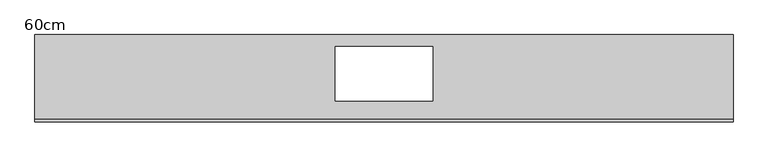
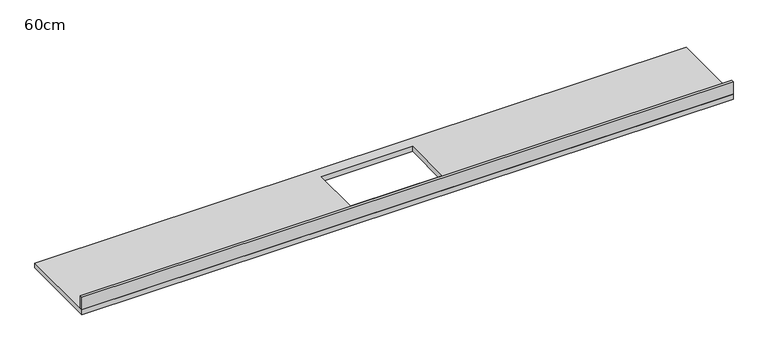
"""IFC4 building model written with IfcOpenShell, lengths in millimetres: proxy geometry, Encimera : 60cm."""

from ifc_helpers import new_model, si_unit, frame, origin, place, context, project, spatial, polyline, outline, extrude, source, transform, mapped, element, save


def proxy_60cm_a1c3a77f(model_context):
    return source(origin(), model_context, "Body", "SweptSolid", [
        extrude(outline(polyline([(0.0, 0.0), (0.0, 625.0), (5000.0, 625.0), (5000.0, 0.0), (0.0, 0.0)]), holes=[polyline([(2850.2, 540.0), (2149.8, 540.0), (2149.8, 150.0), (2850.2, 150.0), (2850.2, 540.0)])]), frame((0.0, 0.0, 860.0), z_axis=(0.0, 0.0, 1.0), x_axis=(1.0, 0.0, 0.0)), (0.0, 0.0, 1.0), 40.0),
        extrude(outline(polyline([(5000.0, 0.0), (0.0, 0.0), (0.0, 19.05), (5000.0, 19.05), (5000.0, 0.0)])), frame((0.0, 0.0, 900.0), z_axis=(0.0, 0.0, 1.0), x_axis=(1.0, 0.0, 0.0)), (0.0, 0.0, 1.0), 101.6),
    ])


if __name__ == "__main__":
    model = new_model("IFC4")
    model_context = context("Model", 3, world=origin())
    ifc_project = project(units=[si_unit("LENGTHUNIT", "METRE", prefix="MILLI")], contexts=[model_context])
    site = spatial("IfcSite", under=ifc_project)
    building = spatial("IfcBuilding", under=site)
    placement = place(None, origin())
    proxy_60cm_shape = proxy_60cm_a1c3a77f(model_context)
    element("IfcBuildingElementProxy", 1, Name="Encimera : 60cm", ObjectType="Encimera : 60cm", at=placement, inside=building, context=model_context, shape_type="MappedRepresentation", body=[
        mapped(proxy_60cm_shape, transform((0.0, 0.0, 0.0), x_axis=(1.0, 0.0, 0.0), y_axis=(0.0, 1.0, 0.0), z_axis=(0.0, 0.0, 1.0))),
    ])
    save(model, "model.ifc")
